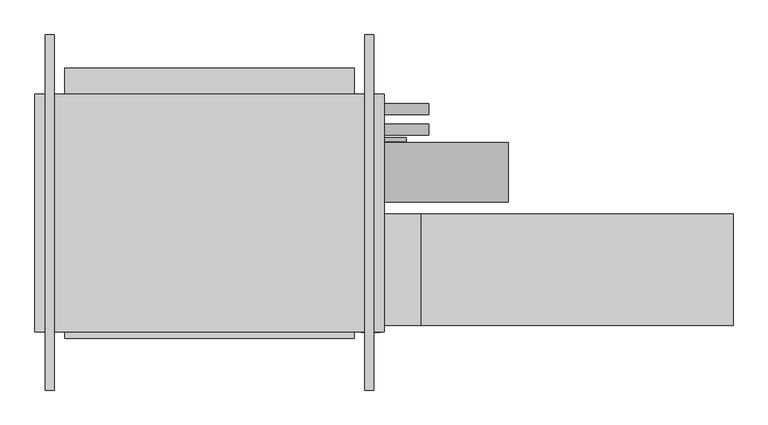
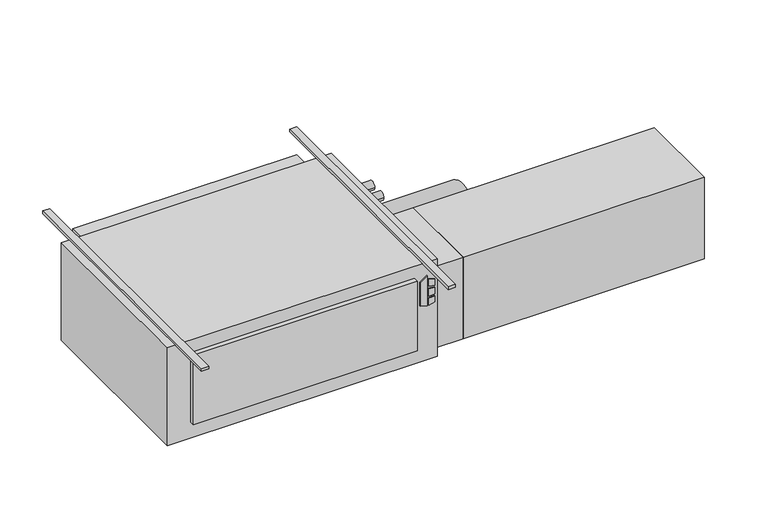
"""IFC4 building model written with IfcOpenShell, lengths in millimetres: proxy geometry."""

from ifc_helpers import new_model, si_unit, point, frame, frame_2d, origin, origin_with_axes, place, context, project, spatial, polyline, circle_curve, trimmed, segment, composite_curve, outline, extrude, source, transform, mapped, element, save


def mechanical_equipment_e7b05cd7(model_context):
    return source(origin(), model_context, "Body", "SweptSolid", [
        extrude(outline(polyline([(-193.2519297, 671.5868862), (-203.2, 703.7602728), (-61.0290756, 703.7602728), (-84.0510817, 671.5868862), (-193.2519297, 671.5868862)])), frame((0.0, -647.7, 0.0), z_axis=(0.0, 1.0, 0.0), x_axis=(0.0, 0.0, 1.0)), (0.0, 0.0, 1.0), 3.175),
        extrude(outline(polyline([(-114.2526443, 710.5186058), (-117.4550368, 736.6), (-88.2261958, 736.6), (-80.1617807, 710.5186058), (-114.2526443, 710.5186058)])), frame((0.0, -647.7, 0.0), z_axis=(0.0, 1.0, 0.0), x_axis=(0.0, 0.0, 1.0)), (0.0, 0.0, 1.0), 3.175),
        extrude(outline(polyline([(-166.1161712, 736.6), (-169.7816721, 710.5186058), (-203.2, 710.5186058), (-194.5657628, 736.6), (-166.1161712, 736.6)])), frame((0.0, -647.7, 0.0), z_axis=(0.0, 1.0, 0.0), x_axis=(0.0, 0.0, 1.0)), (0.0, 0.0, 1.0), 3.175),
        extrude(outline(polyline([(-126.8010097, 736.6), (-124.5191834, 710.5186058), (-160.4567319, 710.5186058), (-157.7154669, 736.6), (-126.8010097, 736.6)])), frame((0.0, -647.7, 0.0), z_axis=(0.0, 1.0, 0.0), x_axis=(0.0, 0.0, 1.0)), (0.0, 0.0, 1.0), 3.175),
        extrude(outline(polyline([(647.7, -666.877), (-342.9, -666.877), (-342.9, -644.525), (647.7, -644.525), (647.7, -666.877)])), frame((0.0, 0.0, -381.0), z_axis=(0.0, 0.0, 1.0), x_axis=(1.0, 0.0, 0.0)), (0.0, 0.0, 1.0), 323.85),
        extrude(outline(polyline([(1943.1, -241.3), (1943.1, -622.3), (876.3, -622.3), (876.3, -241.3), (1943.1, -241.3)])), frame((0.0, 0.0, -431.8), z_axis=(0.0, 0.0, 1.0), x_axis=(1.0, 0.0, 0.0)), (0.0, 0.0, 1.0), 381.0),
        extrude(outline(polyline([(876.3, -241.3), (876.3, -622.3), (749.3, -622.3), (749.3, -241.3), (876.3, -241.3)])), frame((0.0, 0.0, -431.8), z_axis=(0.0, 0.0, 1.0), x_axis=(1.0, 0.0, 0.0)), (0.0, 0.0, 1.0), 381.0),
        extrude(outline(composite_curve([segment(trimmed(circle_curve(frame_2d((117.475, -171.45)), 19.05), [point((136.525, -171.45))], [point((98.425, -171.45))], False, "CARTESIAN"), True, "CONTINUOUS"), segment(trimmed(circle_curve(frame_2d((117.475, -171.45)), 19.05), [point((98.425, -171.45))], [point((136.525, -171.45))], False, "CARTESIAN"), True, "CONTINUOUS")], self_intersect=False)), frame((749.3, 0.0, 0.0), z_axis=(1.0, 0.0, 0.0), x_axis=(0.0, 1.0, 0.0)), (0.0, 0.0, 1.0), 152.4),
        extrude(outline(composite_curve([segment(trimmed(circle_curve(frame_2d((47.625, -177.8)), 19.05), [point((66.675, -177.8))], [point((28.575, -177.8))], False, "CARTESIAN"), True, "CONTINUOUS"), segment(trimmed(circle_curve(frame_2d((47.625, -177.8)), 19.05), [point((28.575, -177.8))], [point((66.675, -177.8))], False, "CARTESIAN"), True, "CONTINUOUS")], self_intersect=False)), frame((749.3, 0.0, 0.0), z_axis=(1.0, 0.0, 0.0), x_axis=(0.0, 1.0, 0.0)), (0.0, 0.0, 1.0), 152.4),
        extrude(outline(composite_curve([segment(trimmed(circle_curve(frame_2d((-98.4896516, -228.6360165)), 101.6), [point((3.1103484, -228.6360165))], [point((-200.0896516, -228.6360165))], False, "CARTESIAN"), True, "CONTINUOUS"), segment(trimmed(circle_curve(frame_2d((-98.4896516, -228.6360165)), 101.6), [point((-200.0896516, -228.6360165))], [point((3.1103484, -228.6360165))], False, "CARTESIAN"), True, "CONTINUOUS")], self_intersect=False)), frame((749.3, 0.0, 0.0), z_axis=(1.0, 0.0, 0.0), x_axis=(0.0, 1.0, 0.0)), (0.0, 0.0, 1.0), 425.45),
        extrude(outline(composite_curve([segment(trimmed(circle_curve(frame_2d((12.7, -409.575)), 6.35), [point((19.05, -409.575))], [point((6.35, -409.575))], False, "CARTESIAN"), True, "CONTINUOUS"), segment(trimmed(circle_curve(frame_2d((12.7, -409.575)), 6.35), [point((6.35, -409.575))], [point((19.05, -409.575))], False, "CARTESIAN"), True, "CONTINUOUS")], self_intersect=False)), frame((749.3, 0.0, 0.0), z_axis=(1.0, 0.0, 0.0), x_axis=(0.0, 1.0, 0.0)), (0.0, 0.0, 1.0), 76.2),
        extrude(outline(polyline([(749.3, 168.275), (749.3, -644.525), (-444.5, -644.525), (-444.5, 168.275), (749.3, 168.275)])), frame((0.0, 0.0, -457.2), z_axis=(0.0, 0.0, 1.0), x_axis=(1.0, 0.0, 0.0)), (0.0, 0.0, 1.0), 457.2),
        extrude(outline(polyline([(-342.9, 257.175), (647.7, 257.175), (647.7, 168.275), (-342.9, 168.275), (-342.9, 257.175)])), frame((0.0, 0.0, -381.0), z_axis=(0.0, 0.0, 1.0), x_axis=(1.0, 0.0, 0.0)), (0.0, 0.0, 1.0), 355.6),
        extrude(outline(polyline([(-377.825, 371.475), (-377.825, -844.677), (-409.575, -844.677), (-409.575, 371.475), (-377.825, 371.475)])), origin_with_axes(), (0.0, 0.0, 1.0), 12.7),
        extrude(outline(polyline([(714.375, 371.475), (714.375, -844.677), (682.625, -844.677), (682.625, 371.475), (714.375, 371.475)])), origin_with_axes(), (0.0, 0.0, 1.0), 12.7),
    ])


if __name__ == "__main__":
    model = new_model("IFC4")
    model_context = context("Model", 3, world=origin())
    ifc_project = project(units=[si_unit("LENGTHUNIT", "METRE", prefix="MILLI")], contexts=[model_context])
    site = spatial("IfcSite", under=ifc_project)
    building = spatial("IfcBuilding", under=site)
    placement = place(None, origin())
    mechanical_equipment_shape = mechanical_equipment_e7b05cd7(model_context)
    element("IfcBuildingElementProxy", 1, Name="High_Capacity_Horizontal_Cabinet_Fan_Coil_Unit_-_HTY_-_IEC_-_2-Pipe_WO-Attenuator_RH Side_2022 : Size 16 - 277v/60Hz/1Ph - 8/0 Coil - 8\" AirIn", ObjectType="High_Capacity_Horizontal_Cabinet_Fan_Coil_Unit_-_HTY_-_IEC_-_2-Pipe_WO-Attenuator_RH Side_2022 : Size 16 - 277v/60Hz/1Ph - 8/0 Coil - 8\" AirIn", at=placement, inside=building, context=model_context, shape_type="MappedRepresentation", body=[
        mapped(mechanical_equipment_shape, transform((0.0, 0.0, 0.0), x_axis=(1.0, 0.0, 0.0), y_axis=(0.0, 1.0, 0.0), z_axis=(0.0, 0.0, 1.0))),
    ])
    save(model, "model.ifc")
